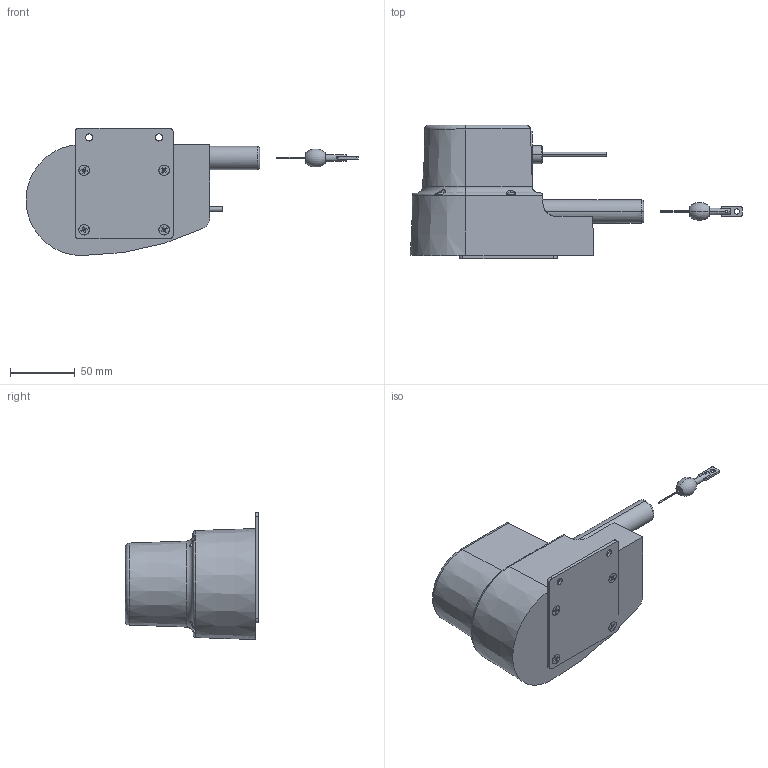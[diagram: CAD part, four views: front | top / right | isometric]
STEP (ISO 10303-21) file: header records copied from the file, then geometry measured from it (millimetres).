
FILE_DESCRIPTION (( 'STEP AP214' ), '1' );
FILE_NAME ('AC-04A_Assem2.STEP', '2024-08-20T00:44:49', ( '' ), ( '' ), 'SwSTEP 2.0', 'SolidWorks 2023', '' );
FILE_SCHEMA (( 'AUTOMOTIVE_DESIGN' ));
Length unit declared in the file: millimetre
Products named in the file (8): AC-04A_Part3; AC-04A_Assem2; AC-04A_Assem1; AC-04A_Part2; AC-04A_Part1; AC-04A_ブラケット; Flat Head SCREW M4 X6 MM; SCREW M3 X6 MM
Assembly tree (14 placements, depth 3):
  AC-04A_Assem2
    AC-04A_Assem1
      AC-04A_Part1
      AC-04A_Part2
      AC-04A_Part3
      SCREW M3 X6 MM  x5
    AC-04A_ブラケット
    Flat Head SCREW M4 X6 MM  x4
Bounding box: 257.22 x 103.3 x 98.5 mm (x, y, z)
Volume: 748474.4 mm3; surface area: 73000.6 mm2
Topology: 14 solids, 14 shells, 390 faces, 1073 edges, 736 vertices
Faces by surface type: plane 158, cylinder 110, cone 50, bspline 41, torus 31
Entity records: 8674 total; most frequent: CARTESIAN_POINT 2439, DIRECTION 1309, ORIENTED_EDGE 1222, EDGE_CURVE 611, AXIS2_PLACEMENT_3D 524, VERTEX_POINT 402, CIRCLE 278, EDGE_LOOP 277
